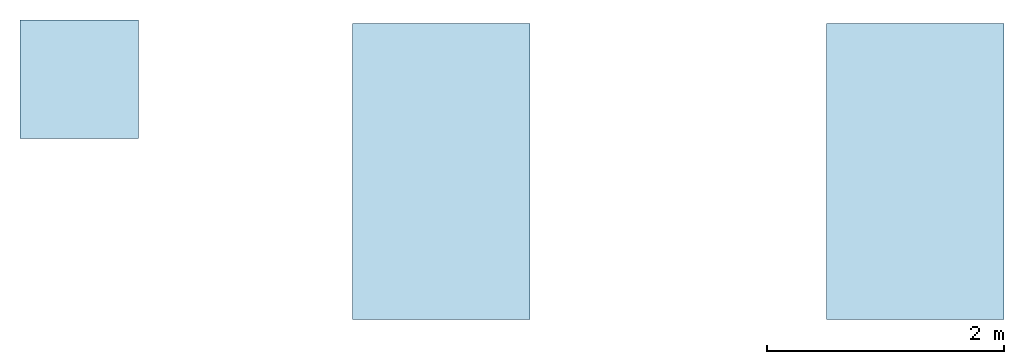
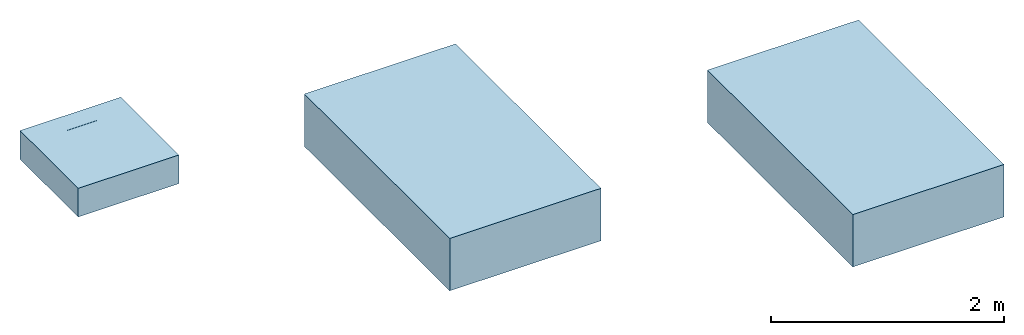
# One storey: 3 slabs.
"""IFC2X3 building model written with IfcOpenShell, lengths in metres."""

from ifc_helpers import new_model, entity, si_unit, converted_unit, derived_unit, direction, frame, frame_2d, origin, place, context, subcontext, project, spatial, rectangle, extrude, faceted_brep, material, type_object, element, save


model = new_model("IFC2X3")

# Units and contexts
model_context = context("Model", 3, precision=1e-05, world=origin(), true_north=direction((6.12303176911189e-17, 1.0)))
body_context = subcontext(model_context, "Body", "Model", "MODEL_VIEW")
ifc_project = project(units=[si_unit("LENGTHUNIT", "METRE"), si_unit("AREAUNIT", "SQUARE_METRE"), si_unit("VOLUMEUNIT", "CUBIC_METRE"), converted_unit("PLANEANGLEUNIT", "DEGREE", entity("IfcRatioMeasure", 0.0174532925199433), si_unit("PLANEANGLEUNIT", "RADIAN"), dimensions=[0, 0, 0, 0, 0, 0, 0]), si_unit("MASSUNIT", "GRAM", prefix="KILO"), derived_unit("MASSDENSITYUNIT", [(si_unit("MASSUNIT", "GRAM", prefix="KILO"), 1), (si_unit("LENGTHUNIT", "METRE"), -3)]), si_unit("TIMEUNIT", "SECOND"), si_unit("FREQUENCYUNIT", "HERTZ"), si_unit("THERMODYNAMICTEMPERATUREUNIT", "DEGREE_CELSIUS"), derived_unit("THERMALTRANSMITTANCEUNIT", [(si_unit("MASSUNIT", "GRAM", prefix="KILO"), 1), (si_unit("THERMODYNAMICTEMPERATUREUNIT", "KELVIN"), -1), (si_unit("TIMEUNIT", "SECOND"), -3)]), derived_unit("VOLUMETRICFLOWRATEUNIT", [(si_unit("LENGTHUNIT", "METRE"), 3), (si_unit("TIMEUNIT", "SECOND"), -1)]), si_unit("ELECTRICCURRENTUNIT", "AMPERE"), si_unit("ELECTRICVOLTAGEUNIT", "VOLT"), si_unit("POWERUNIT", "WATT"), si_unit("FORCEUNIT", "NEWTON"), si_unit("ILLUMINANCEUNIT", "LUX"), si_unit("LUMINOUSFLUXUNIT", "LUMEN"), si_unit("LUMINOUSINTENSITYUNIT", "CANDELA"), derived_unit("USERDEFINED", [(si_unit("MASSUNIT", "GRAM", prefix="KILO"), -1), (si_unit("LENGTHUNIT", "METRE"), -2), (si_unit("TIMEUNIT", "SECOND"), 3), (si_unit("LUMINOUSFLUXUNIT", "LUMEN"), 1)]), derived_unit("LINEARVELOCITYUNIT", [(si_unit("LENGTHUNIT", "METRE"), 1), (si_unit("TIMEUNIT", "SECOND"), -1)]), si_unit("PRESSUREUNIT", "PASCAL"), derived_unit("USERDEFINED", [(si_unit("LENGTHUNIT", "METRE"), -2), (si_unit("MASSUNIT", "GRAM", prefix="KILO"), 1), (si_unit("TIMEUNIT", "SECOND"), -2)])], contexts=[model_context])

# Site, building, storey
site_placement = place(None, origin())
site = spatial("IfcSite", under=ifc_project, at=site_placement, Name="Default", CompositionType="ELEMENT")
building_placement = place(site_placement, origin())
building = spatial("IfcBuilding", under=site, at=building_placement, CompositionType="ELEMENT")
storey_placement = place(building_placement, frame((0.0, 0.0, -0.399999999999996)))
storey = spatial("IfcBuildingStorey", under=building, at=storey_placement, Name="S01", CompositionType="ELEMENT", Elevation=-0.399999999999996)

# Slabs
ifc_material = material(Name="Béton - Béton coulé sur place")
slab_type_1 = type_object("IfcSlabType", Name="150x250x55ht", PredefinedType="FLOOR", material=ifc_material)
slab_1_placement = place(storey_placement, origin())
element("IfcSlab", 1, at=slab_1_placement, inside=storey, type_object=slab_type_1, Name="M_Base-Rectangulaire:150x250x55ht", ObjectType="M_Base-Rectangulaire:150x250x55ht", PredefinedType="FLOOR", context=body_context, shape_type="SweptSolid", body=[
    extrude(rectangle(XDim=2.49999999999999, YDim=1.5, at=frame_2d((0.0, -2.16493489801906e-15), x_axis=(1.0, 0.0))), frame((25.4897436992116, -194.042985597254, -3.24879999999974), z_axis=(0.0, 0.0, 1.0), x_axis=(0.0, 1.0, 0.0)), (0.0, 0.0, 1.0), 0.55),
])
slab_type_2 = type_object("IfcSlabType", Name="150x250x55ht", PredefinedType="FLOOR", material=ifc_material)
slab_2_placement = place(storey_placement, origin())
element("IfcSlab", 2, at=slab_2_placement, inside=storey, type_object=slab_type_2, Name="M_Base-Rectangulaire:150x250x55ht", ObjectType="M_Base-Rectangulaire:150x250x55ht", PredefinedType="FLOOR", context=body_context, shape_type="SweptSolid", body=[
    extrude(rectangle(XDim=2.49999999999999, YDim=1.5, at=frame_2d((0.0, 2.16493489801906e-15), x_axis=(1.0, 0.0))), frame((29.4897436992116, -194.042985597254, -4.39879999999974), z_axis=(0.0, 0.0, 1.0), x_axis=(0.0, 1.0, 0.0)), (0.0, 0.0, 1.0), 0.55),
])
slab_type_3 = type_object("IfcSlabType", Name="100x100x30ht", PredefinedType="FLOOR", material=ifc_material)
slab_3_placement = place(storey_placement, frame((21.9345176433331, -193.764651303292, -2.41839601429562)))
element("IfcSlab", 3, at=slab_3_placement, inside=storey, type_object=slab_type_3, Name="M_Base-Rectangulaire:100x100x30ht", ObjectType="M_Base-Rectangulaire:100x100x30ht", PredefinedType="FLOOR", context=body_context, shape_type="Brep", body=[
    faceted_brep([(1.0, 1.0, 0.3), (0.0, 1.0, 0.3), (0.0, 0.0, 0.3), (1.0, 0.0, 0.3), (0.649999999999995, 0.800000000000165, 0.3), (0.649999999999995, 0.200000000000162, 0.3), (0.349999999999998, 0.200000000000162, 0.3), (0.349999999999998, 0.800000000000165, 0.3), (1.0, 1.0, 0.0), (1.0, 0.65000000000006, 0.0), (1.0, 0.350000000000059, 0.0), (1.0, 0.0, 0.0), (0.0, 0.0, 0.0), (0.0, 1.0, 0.0), (0.349999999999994, 0.200000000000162, 0.298396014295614), (0.649999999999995, 0.200000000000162, 0.298396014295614), (0.649999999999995, 0.800000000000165, 0.298396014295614), (0.349999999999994, 0.800000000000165, 0.298396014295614)], [[[0, 1, 2, 3], [4, 5, 6, 7]], [[8, 9, 10, 11, 12, 13]], [[1, 0, 8, 13]], [[2, 1, 13, 12]], [[3, 2, 12, 11]], [[0, 3, 11, 10, 9, 8]], [[14, 15, 16, 17]], [[16, 15, 5, 4]], [[17, 16, 4, 7]], [[14, 17, 7, 6]], [[15, 14, 6, 5]]]),
])

save(model, "model.ifc")
